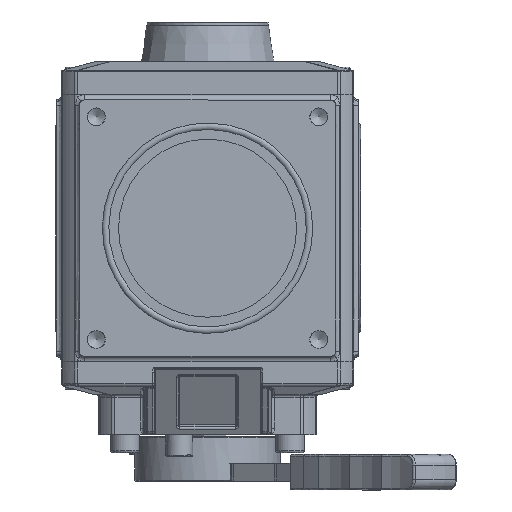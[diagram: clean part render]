
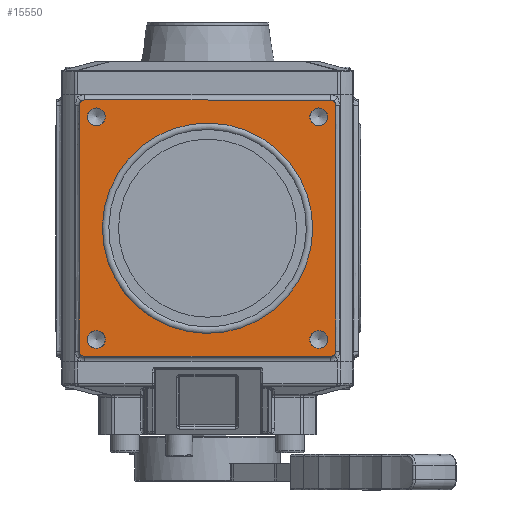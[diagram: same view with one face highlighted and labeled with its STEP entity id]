
A CAD part, left-side view. The second image highlights one B-rep face of the part: STEP entity #15550.
In plain terms, the highlighted planar face has unit normal (-1, 0, 0).
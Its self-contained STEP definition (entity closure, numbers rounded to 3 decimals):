
#709=FACE_BOUND('',#3514,.T.);
#710=FACE_BOUND('',#3515,.T.);
#711=FACE_BOUND('',#3516,.T.);
#712=FACE_BOUND('',#3517,.T.);
#713=FACE_BOUND('',#3518,.T.);
#1924=PLANE('',#16971);
#2535=FACE_OUTER_BOUND('',#3513,.T.);
#3513=EDGE_LOOP('',(#12533,#12534,#12535,#12536,#12537,#12538,#12539,#12540,
#12541,#12542,#12543,#12544));
#3514=EDGE_LOOP('',(#12545));
#3515=EDGE_LOOP('',(#12546));
#3516=EDGE_LOOP('',(#12547));
#3517=EDGE_LOOP('',(#12548));
#3518=EDGE_LOOP('',(#12549));
#4485=LINE('',#26640,#5392);
#4486=LINE('',#26646,#5393);
#4487=LINE('',#26652,#5394);
#4488=LINE('',#26658,#5395);
#5392=VECTOR('',#20170,10.);
#5393=VECTOR('',#20175,10.);
#5394=VECTOR('',#20180,10.);
#5395=VECTOR('',#20185,10.);
#5934=CIRCLE('',#16257,59.05);
#6295=CIRCLE('',#16972,3.);
#6296=CIRCLE('',#16973,3.);
#6297=CIRCLE('',#16974,3.);
#6298=CIRCLE('',#16975,3.);
#6299=CIRCLE('',#16976,3.);
#6300=CIRCLE('',#16977,3.);
#6301=CIRCLE('',#16978,3.);
#6302=CIRCLE('',#16979,3.);
#6303=CIRCLE('',#16980,5.053);
#6304=CIRCLE('',#16981,5.053);
#6305=CIRCLE('',#16982,5.053);
#6306=CIRCLE('',#16983,5.053);
#6912=VERTEX_POINT('',#23079);
#7413=VERTEX_POINT('',#26638);
#7414=VERTEX_POINT('',#26639);
#7415=VERTEX_POINT('',#26641);
#7416=VERTEX_POINT('',#26643);
#7417=VERTEX_POINT('',#26645);
#7418=VERTEX_POINT('',#26647);
#7419=VERTEX_POINT('',#26649);
#7420=VERTEX_POINT('',#26651);
#7421=VERTEX_POINT('',#26653);
#7422=VERTEX_POINT('',#26655);
#7423=VERTEX_POINT('',#26657);
#7424=VERTEX_POINT('',#26659);
#7425=VERTEX_POINT('',#26662);
#7426=VERTEX_POINT('',#26664);
#7427=VERTEX_POINT('',#26666);
#7428=VERTEX_POINT('',#26668);
#8341=EDGE_CURVE('',#6912,#6912,#5934,.T.);
#9195=EDGE_CURVE('',#7413,#7414,#4485,.T.);
#9196=EDGE_CURVE('',#7415,#7413,#6295,.T.);
#9197=EDGE_CURVE('',#7416,#7415,#6296,.T.);
#9198=EDGE_CURVE('',#7417,#7416,#4486,.T.);
#9199=EDGE_CURVE('',#7418,#7417,#6297,.T.);
#9200=EDGE_CURVE('',#7419,#7418,#6298,.T.);
#9201=EDGE_CURVE('',#7420,#7419,#4487,.T.);
#9202=EDGE_CURVE('',#7421,#7420,#6299,.T.);
#9203=EDGE_CURVE('',#7422,#7421,#6300,.T.);
#9204=EDGE_CURVE('',#7423,#7422,#4488,.T.);
#9205=EDGE_CURVE('',#7424,#7423,#6301,.T.);
#9206=EDGE_CURVE('',#7414,#7424,#6302,.T.);
#9207=EDGE_CURVE('',#7425,#7425,#6303,.T.);
#9208=EDGE_CURVE('',#7426,#7426,#6304,.T.);
#9209=EDGE_CURVE('',#7427,#7427,#6305,.T.);
#9210=EDGE_CURVE('',#7428,#7428,#6306,.T.);
#12533=ORIENTED_EDGE('',*,*,#9195,.F.);
#12534=ORIENTED_EDGE('',*,*,#9196,.F.);
#12535=ORIENTED_EDGE('',*,*,#9197,.F.);
#12536=ORIENTED_EDGE('',*,*,#9198,.F.);
#12537=ORIENTED_EDGE('',*,*,#9199,.F.);
#12538=ORIENTED_EDGE('',*,*,#9200,.F.);
#12539=ORIENTED_EDGE('',*,*,#9201,.F.);
#12540=ORIENTED_EDGE('',*,*,#9202,.F.);
#12541=ORIENTED_EDGE('',*,*,#9203,.F.);
#12542=ORIENTED_EDGE('',*,*,#9204,.F.);
#12543=ORIENTED_EDGE('',*,*,#9205,.F.);
#12544=ORIENTED_EDGE('',*,*,#9206,.F.);
#12545=ORIENTED_EDGE('',*,*,#8341,.T.);
#12546=ORIENTED_EDGE('',*,*,#9207,.F.);
#12547=ORIENTED_EDGE('',*,*,#9208,.F.);
#12548=ORIENTED_EDGE('',*,*,#9209,.F.);
#12549=ORIENTED_EDGE('',*,*,#9210,.F.);
#15550=ADVANCED_FACE('',(#2535,#709,#710,#711,#712,#713),#1924,.T.);
#16257=AXIS2_PLACEMENT_3D('',#23080,#18418,#18419);
#16971=AXIS2_PLACEMENT_3D('',#26637,#20168,#20169);
#16972=AXIS2_PLACEMENT_3D('',#26642,#20171,#20172);
#16973=AXIS2_PLACEMENT_3D('',#26644,#20173,#20174);
#16974=AXIS2_PLACEMENT_3D('',#26648,#20176,#20177);
#16975=AXIS2_PLACEMENT_3D('',#26650,#20178,#20179);
#16976=AXIS2_PLACEMENT_3D('',#26654,#20181,#20182);
#16977=AXIS2_PLACEMENT_3D('',#26656,#20183,#20184);
#16978=AXIS2_PLACEMENT_3D('',#26660,#20186,#20187);
#16979=AXIS2_PLACEMENT_3D('',#26661,#20188,#20189);
#16980=AXIS2_PLACEMENT_3D('',#26663,#20190,#20191);
#16981=AXIS2_PLACEMENT_3D('',#26665,#20192,#20193);
#16982=AXIS2_PLACEMENT_3D('',#26667,#20194,#20195);
#16983=AXIS2_PLACEMENT_3D('',#26669,#20196,#20197);
#18418=DIRECTION('center_axis',(1.,0.,0.));
#18419=DIRECTION('ref_axis',(0.,0.,-1.));
#20168=DIRECTION('center_axis',(-1.,0.,0.));
#20169=DIRECTION('ref_axis',(0.,0.,1.));
#20170=DIRECTION('',(0.,1.,0.));
#20171=DIRECTION('center_axis',(1.,0.,0.));
#20172=DIRECTION('ref_axis',(0.,-0.707,-0.707));
#20173=DIRECTION('center_axis',(1.,0.,0.));
#20174=DIRECTION('ref_axis',(0.,0.,
-1.));
#20175=DIRECTION('',(0.,0.,-1.));
#20176=DIRECTION('center_axis',(1.,0.,0.));
#20177=DIRECTION('ref_axis',(0.,-1.,0.));
#20178=DIRECTION('center_axis',(1.,0.,0.));
#20179=DIRECTION('ref_axis',(0.,-0.707,0.707));
#20180=DIRECTION('',(0.,-1.,0.));
#20181=DIRECTION('center_axis',(1.,0.,0.));
#20182=DIRECTION('ref_axis',(0.,0.707,0.707));
#20183=DIRECTION('center_axis',(1.,0.,0.));
#20184=DIRECTION('ref_axis',(0.,0.,
1.));
#20185=DIRECTION('',(0.,0.,1.));
#20186=DIRECTION('center_axis',(1.,0.,0.));
#20187=DIRECTION('ref_axis',(0.,1.,0.));
#20188=DIRECTION('center_axis',(1.,0.,0.));
#20189=DIRECTION('ref_axis',(0.,0.707,-0.707));
#20190=DIRECTION('center_axis',(-1.,0.,0.));
#20191=DIRECTION('ref_axis',(0.,0.,
1.));
#20192=DIRECTION('center_axis',(-1.,0.,0.));
#20193=DIRECTION('ref_axis',(0.,0.,
1.));
#20194=DIRECTION('center_axis',(-1.,0.,0.));
#20195=DIRECTION('ref_axis',(0.,0.,
1.));
#20196=DIRECTION('center_axis',(-1.,0.,0.));
#20197=DIRECTION('ref_axis',(0.,0.,
1.));
#23079=CARTESIAN_POINT('',(-85.,-30.568,125.522));
#23080=CARTESIAN_POINT('Origin',(-85.,0.,75.));
#26637=CARTESIAN_POINT('Origin',(-85.,0.,75.));
#26638=CARTESIAN_POINT('',(-85.,-69.,3.));
#26639=CARTESIAN_POINT('',(-85.,69.,3.));
#26640=CARTESIAN_POINT('',(-85.,2.5,3.));
#26641=CARTESIAN_POINT('',(-85.,-71.005,3.768));
#26642=CARTESIAN_POINT('Origin',(-85.,-69.,6.));
#26643=CARTESIAN_POINT('',(-85.,-72.,6.));
#26644=CARTESIAN_POINT('Origin',(-85.,-69.,6.));
#26645=CARTESIAN_POINT('',(-85.,-72.,144.));
#26646=CARTESIAN_POINT('',(-85.,-72.,109.5));
#26647=CARTESIAN_POINT('',(-85.,-71.005,146.232));
#26648=CARTESIAN_POINT('Origin',(-85.,-69.,144.));
#26649=CARTESIAN_POINT('',(-85.,-69.,147.));
#26650=CARTESIAN_POINT('Origin',(-85.,-69.,144.));
#26651=CARTESIAN_POINT('',(-85.,69.,147.));
#26652=CARTESIAN_POINT('',(-85.,71.5,147.));
#26653=CARTESIAN_POINT('',(-85.,71.005,146.232));
#26654=CARTESIAN_POINT('Origin',(-85.,69.,144.));
#26655=CARTESIAN_POINT('',(-85.,72.,144.));
#26656=CARTESIAN_POINT('Origin',(-85.,69.,144.));
#26657=CARTESIAN_POINT('',(-85.,72.,6.));
#26658=CARTESIAN_POINT('',(-85.,72.,40.5));
#26659=CARTESIAN_POINT('',(-85.,71.005,3.768));
#26660=CARTESIAN_POINT('Origin',(-85.,69.,6.));
#26661=CARTESIAN_POINT('Origin',(-85.,69.,6.));
#26662=CARTESIAN_POINT('',(-85.,-62.5,132.447));
#26663=CARTESIAN_POINT('Origin',(-85.,-62.5,137.5));
#26664=CARTESIAN_POINT('',(-85.,62.5,7.447));
#26665=CARTESIAN_POINT('Origin',(-85.,62.5,12.5));
#26666=CARTESIAN_POINT('',(-85.,-62.5,7.447));
#26667=CARTESIAN_POINT('Origin',(-85.,-62.5,12.5));
#26668=CARTESIAN_POINT('',(-85.,62.5,132.447));
#26669=CARTESIAN_POINT('Origin',(-85.,62.5,137.5));
